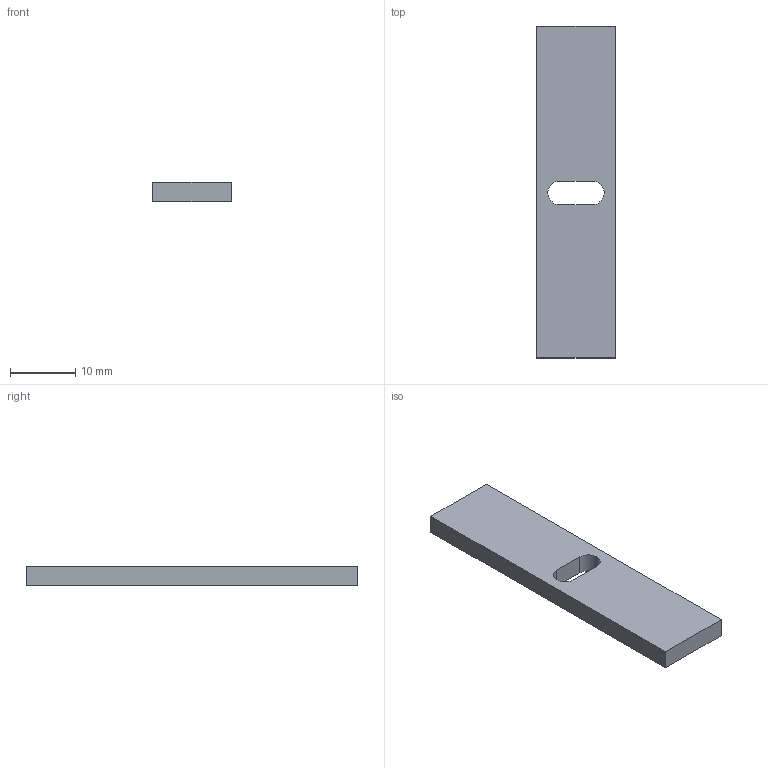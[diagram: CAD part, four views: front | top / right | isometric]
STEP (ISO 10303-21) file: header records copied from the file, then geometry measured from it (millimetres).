
FILE_DESCRIPTION(('Open CASCADE Model'),'2;1');
FILE_NAME('Open CASCADE Shape Model','2026-11-20T22:44:44',('Author'),( 'Open CASCADE'),'Open CASCADE STEP processor 7.8','Open CASCADE 7.8' ,'Unknown');
FILE_SCHEMA(('AUTOMOTIVE_DESIGN { 1 0 10303 214 1 1 1 1 }'));
Length unit declared in the file: millimetre
Products named in the file (1): Open CASCADE STEP translator 7.8 9
Bounding box: 12 x 50.7 x 3 mm (x, y, z)
Volume: 1740.7 mm3; surface area: 1600.6 mm2
Topology: 1 solids, 1 shells, 11 faces, 27 edges, 18 vertices
Faces by surface type: plane 8, cylinder 3
Entity records: 692 total; most frequent: CARTESIAN_POINT 111, DIRECTION 111, LINE 69, VECTOR 69, ORIENTED_EDGE 54, PCURVE 54, DEFINITIONAL_REPRESENTATION 54, EDGE_CURVE 27
